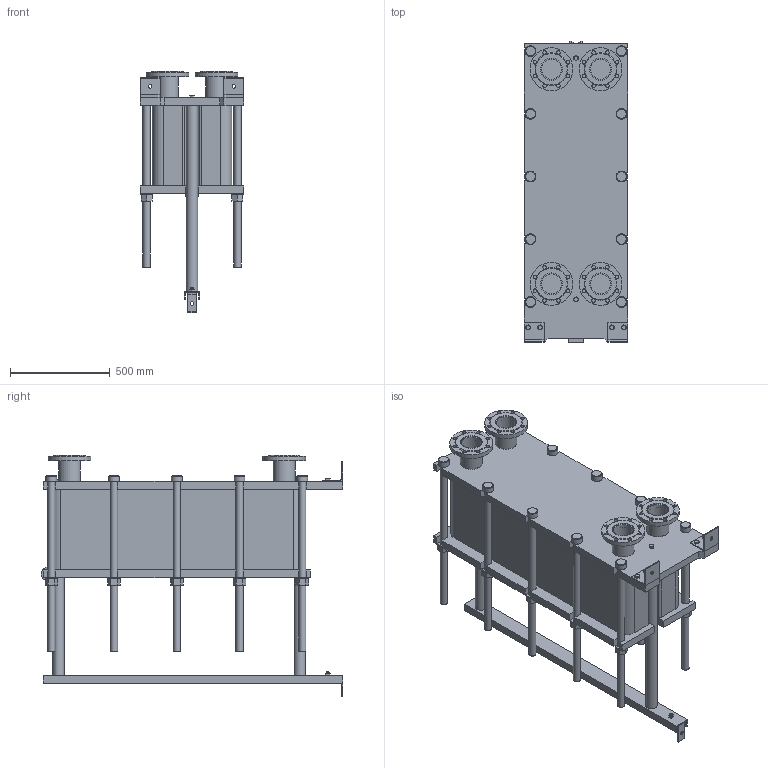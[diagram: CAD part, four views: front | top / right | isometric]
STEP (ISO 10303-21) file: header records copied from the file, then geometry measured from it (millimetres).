
FILE_DESCRIPTION(/* description */ (''),/* implementation_level */ '2;1');
FILE_NAME(/* name */ 'C:\Users\zhuro\Desktop\ENCO\TO\ЭН-04\ЭН-0,5-04-117-1.stp',/* time_stamp */ '2022-06-06T10:55:48+03:00',/* author */ ('zhuro'),/* organization */ (''),/* preprocessor_version */ 'ST-DEVELOPER v18.1',/* originating_system */ 'Autodesk Inventor 2022',/* authorisation */ '');
FILE_SCHEMA (('AUTOMOTIVE_DESIGN { 1 0 10303 214 3 1 1 }'));
Length unit declared in the file: millimetre
Products named in the file (1): ЭН-0,5-04-117-1
Bounding box: 520 x 1510 x 1208.5 mm (x, y, z)
Volume: 273847522.8 mm3; surface area: 8729093.6 mm2
Topology: 45 solids, 45 shells, 668 faces, 1611 edges, 1048 vertices
Faces by surface type: plane 457, cylinder 166, cone 39, torus 6
Full cylindrical faces by diameter (mm): 8 x4, 10 x2, 16 x8, 18 x35, 36 x25, 40 x2, 42 x1, 45 x4, 54 x10, 57 x2, 60 x10, 68 x2, 100 x4, 110 x8, 215 x4
Entity records: 23607 total; most frequent: CARTESIAN_POINT 7348, DIRECTION 3371, ORIENTED_EDGE 3142, EDGE_CURVE 1571, AXIS2_PLACEMENT_3D 1199, VERTEX_POINT 1044, LINE 973, VECTOR 973
